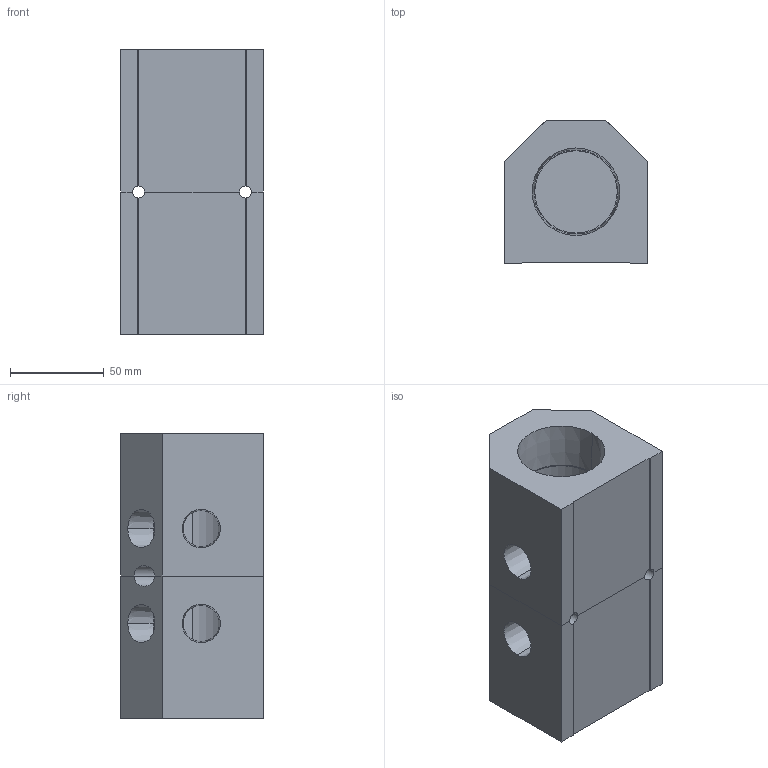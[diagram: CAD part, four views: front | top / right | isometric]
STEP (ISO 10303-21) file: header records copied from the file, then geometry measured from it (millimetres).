
FILE_DESCRIPTION (( 'STEP AP214' ), '1' );
FILE_NAME ('ALM2AB-N8N24-152RB.step', '2022-02-07T09:39:21', ( '' ), ( '' ), 'SwSTEP 2.0', 'SolidWorks 2020', '' );
FILE_SCHEMA (( 'AUTOMOTIVE_DESIGN' ));
Length unit declared in the file: millimetre
Products named in the file (1): ALM2AB-N8N24-152RB
Bounding box: 76.2 x 76.2 x 152 mm (x, y, z)
Volume: 542070.2 mm3; surface area: 87150 mm2
Topology: 2 solids, 2 shells, 341 faces, 901 edges, 600 vertices
Faces by surface type: plane 242, bspline 71, cylinder 16, cone 12
Entity records: 18263 total; most frequent: CARTESIAN_POINT 7166, ORIENTED_EDGE 1802, DIRECTION 1323, EDGE_CURVE 901, LINE 693, VECTOR 693, VERTEX_POINT 600, EDGE_LOOP 385
